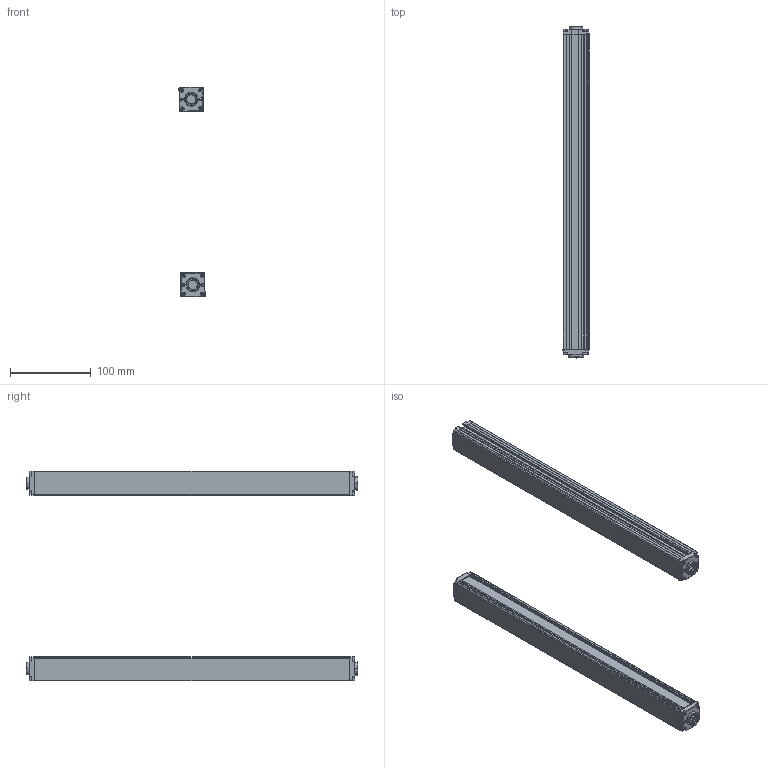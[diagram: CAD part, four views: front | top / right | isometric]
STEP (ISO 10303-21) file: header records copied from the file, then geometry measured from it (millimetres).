
FILE_DESCRIPTION (( 'STEP AP203' ), '1' );
FILE_NAME ('ZDA1040-390.STEP', '2022-08-30T07:40:30', ( 'Windows 蚚誧' ), ( 'Organization' ), 'SwSTEP 2.0', 'SolidWorks 2020', '' );
FILE_SCHEMA (( 'CONFIG_CONTROL_DESIGN' ));
Length unit declared in the file: millimetre
Products named in the file (5): 錨璃1; 錨璃8; 錨璃8 - 萵掛 (2); 錨璃10; ZDA1040-390
Assembly tree (8 placements, depth 2):
  ZDA1040-390
    錨璃1  x2
    錨璃8  x2
    錨璃8 - 萵掛 (2)  x2
    錨璃10  x2
Bounding box: 32.36 x 411.4 x 260.35 mm (x, y, z)
Volume: 254689.6 mm3; surface area: 271460.6 mm2
Topology: 8 solids, 8 shells, 1032 faces, 2690 edges, 1668 vertices
Faces by surface type: plane 464, cylinder 310, cone 120, bspline 58, torus 48, sphere 32
Entity records: 17901 total; most frequent: CARTESIAN_POINT 4731, ORIENTED_EDGE 2666, DIRECTION 2616, EDGE_CURVE 1333, AXIS2_PLACEMENT_3D 894, VERTEX_POINT 834, LINE 828, VECTOR 828
